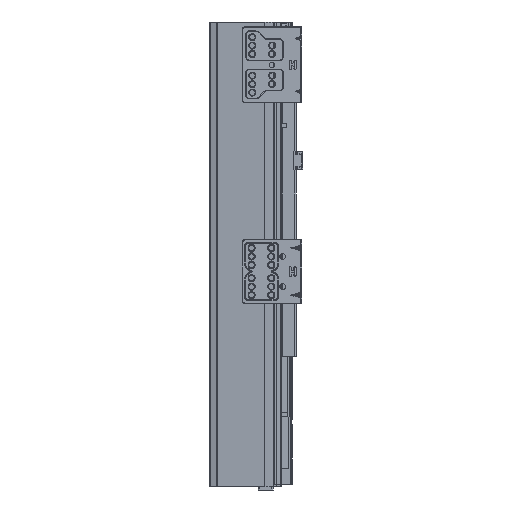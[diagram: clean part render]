
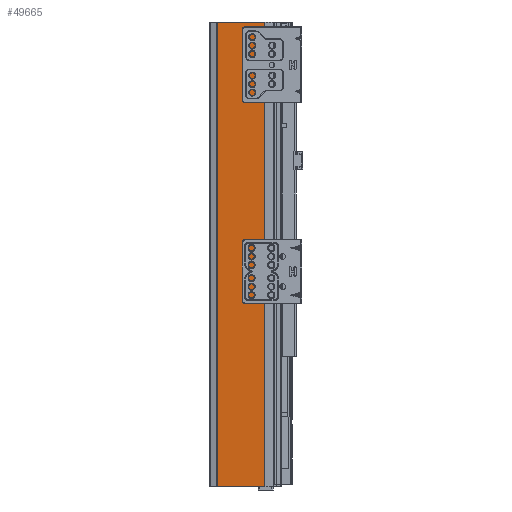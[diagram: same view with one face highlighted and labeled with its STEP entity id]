
A CAD part, left-side view. The second image highlights one B-rep face of the part: STEP entity #49665.
In plain terms, the highlighted planar face has unit normal (-0.996, 0.09, 0).
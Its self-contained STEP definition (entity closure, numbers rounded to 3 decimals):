
#1087=PLANE('',#52588);
#2673=FACE_OUTER_BOUND('',#5531,.T.);
#5531=EDGE_LOOP('',(#33747,#33748,#33749,#33750));
#10785=LINE('',#72548,#15945);
#10842=LINE('',#72716,#16002);
#10843=LINE('',#72719,#16003);
#10844=LINE('',#72720,#16004);
#15945=VECTOR('',#57528,50.178);
#16002=VECTOR('',#57669,493.);
#16003=VECTOR('',#57672,50.178);
#16004=VECTOR('',#57673,493.);
#21112=VERTEX_POINT('',#72545);
#21113=VERTEX_POINT('',#72547);
#21162=VERTEX_POINT('',#72714);
#21163=VERTEX_POINT('',#72718);
#26021=EDGE_CURVE('',#21112,#21113,#10785,.T.);
#26097=EDGE_CURVE('',#21162,#21112,#10842,.T.);
#26098=EDGE_CURVE('',#21163,#21162,#10843,.T.);
#26099=EDGE_CURVE('',#21113,#21163,#10844,.T.);
#33747=ORIENTED_EDGE('',*,*,#26097,.F.);
#33748=ORIENTED_EDGE('',*,*,#26098,.F.);
#33749=ORIENTED_EDGE('',*,*,#26099,.F.);
#33750=ORIENTED_EDGE('',*,*,#26021,.F.);
#49665=ADVANCED_FACE('',(#2673),#1087,.T.);
#52588=AXIS2_PLACEMENT_3D('',#72717,#57670,#57671);
#57528=DIRECTION('',(0.091,0.996,0.));
#57669=DIRECTION('',(0.,0.,-1.));
#57670=DIRECTION('center_axis',(-0.996,0.091,0.));
#57671=DIRECTION('ref_axis',(0.091,0.996,0.));
#57672=DIRECTION('',(-0.091,-0.996,0.));
#57673=DIRECTION('',(0.,0.,1.));
#72545=CARTESIAN_POINT('',(-2.932,-73.069,-579.639));
#72547=CARTESIAN_POINT('',(1.611,-23.097,-579.639));
#72548=CARTESIAN_POINT('',(-2.932,-73.069,-579.639));
#72714=CARTESIAN_POINT('',(-2.932,-73.069,-86.639));
#72716=CARTESIAN_POINT('',(-2.932,-73.069,-86.639));
#72717=CARTESIAN_POINT('Origin',(-0.66,-48.083,-86.639));
#72718=CARTESIAN_POINT('',(1.611,-23.097,-86.639));
#72719=CARTESIAN_POINT('',(1.611,-23.097,-86.639));
#72720=CARTESIAN_POINT('',(1.611,-23.097,-579.639));
